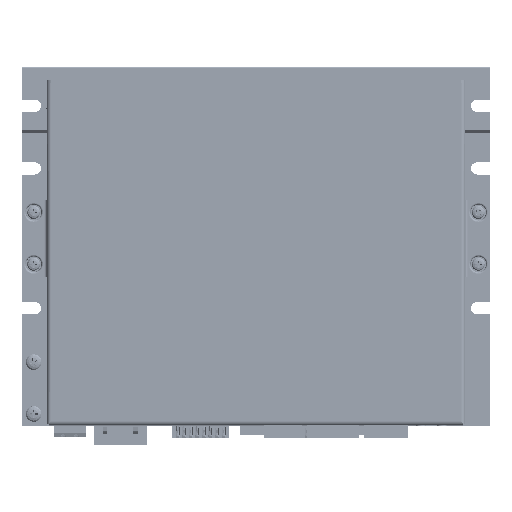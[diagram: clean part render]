
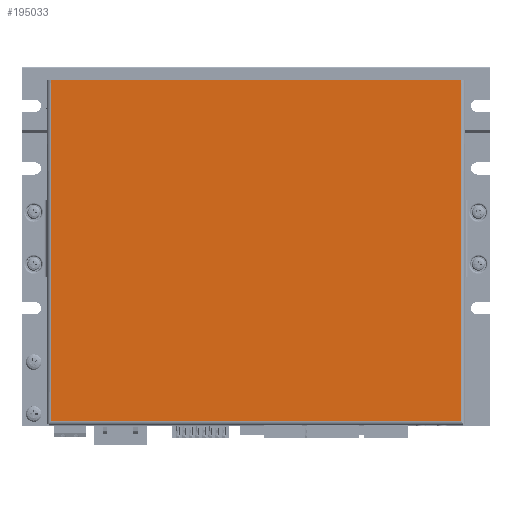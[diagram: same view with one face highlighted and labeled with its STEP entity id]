
A CAD part, top view. The second image highlights one B-rep face of the part: STEP entity #195033.
In plain terms, the highlighted planar face has unit normal (0, 0, 1).
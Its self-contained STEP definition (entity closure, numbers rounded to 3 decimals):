
#18132=LINE('',#289668,#35452);
#18159=LINE('',#289767,#35479);
#18160=LINE('',#289769,#35480);
#18161=LINE('',#289771,#35481);
#35452=VECTOR('',#239292,1000.);
#35479=VECTOR('',#239409,1000.);
#35480=VECTOR('',#239410,1000.);
#35481=VECTOR('',#239411,1000.);
#72566=ORIENTED_EDGE('',*,*,#99648,.T.);
#72567=ORIENTED_EDGE('',*,*,#99649,.T.);
#72568=ORIENTED_EDGE('',*,*,#99650,.T.);
#72569=ORIENTED_EDGE('',*,*,#99602,.T.);
#99602=EDGE_CURVE('',#115760,#115759,#18132,.T.);
#99648=EDGE_CURVE('',#115759,#115787,#18159,.T.);
#99649=EDGE_CURVE('',#115787,#115788,#18160,.T.);
#99650=EDGE_CURVE('',#115788,#115760,#18161,.T.);
#115759=VERTEX_POINT('',#289667);
#115760=VERTEX_POINT('',#289669);
#115787=VERTEX_POINT('',#289768);
#115788=VERTEX_POINT('',#289770);
#127217=EDGE_LOOP('',(#72566,#72567,#72568,#72569));
#136965=FACE_BOUND('',#127217,.T.);
#143993=PLANE('',#206323);
#195033=ADVANCED_FACE('',(#136965),#143993,.T.);
#206323=AXIS2_PLACEMENT_3D('',#289766,#239407,#239408);
#239292=DIRECTION('',(-1.,0.,0.));
#239407=DIRECTION('',(0.,0.,1.));
#239408=DIRECTION('',(1.,0.,0.));
#239409=DIRECTION('',(0.,-1.,0.));
#239410=DIRECTION('',(1.,0.,0.));
#239411=DIRECTION('',(0.,1.,0.));
#289667=CARTESIAN_POINT('',(-79.05,66.75,0.));
#289668=CARTESIAN_POINT('',(80.75,66.75,0.));
#289669=CARTESIAN_POINT('',(79.05,66.75,0.));
#289766=CARTESIAN_POINT('',(0.,0.,0.));
#289767=CARTESIAN_POINT('',(-79.05,66.75,0.));
#289768=CARTESIAN_POINT('',(-79.05,-65.05,0.));
#289769=CARTESIAN_POINT('',(-79.05,-65.05,0.));
#289770=CARTESIAN_POINT('',(79.05,-65.05,0.));
#289771=CARTESIAN_POINT('',(79.05,-66.75,0.));
